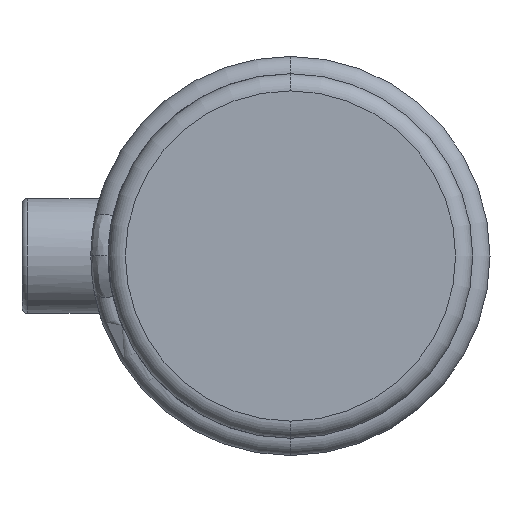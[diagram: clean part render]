
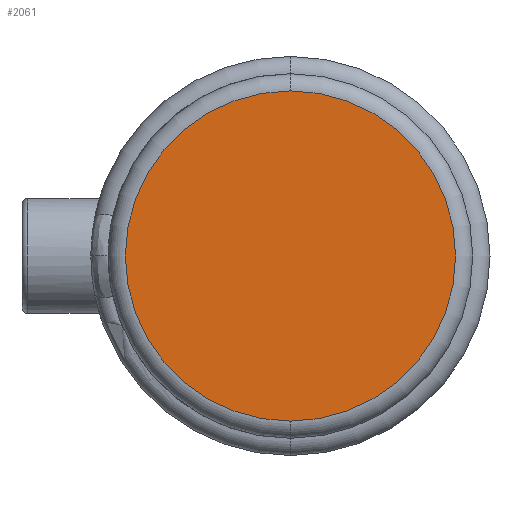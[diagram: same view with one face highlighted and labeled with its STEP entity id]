
A CAD part, left-side view. The second image highlights one B-rep face of the part: STEP entity #2061.
In plain terms, the highlighted planar face has unit normal (-1, 0, 0).
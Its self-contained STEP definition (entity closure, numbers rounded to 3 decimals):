
#177 = FACE_OUTER_BOUND ( 'NONE', #2220, .T. ) ;
#383 = DIRECTION ( 'NONE',  ( -1., 0., 0. ) ) ;
#790 = CARTESIAN_POINT ( 'NONE',  ( 0., 0., -28.75 ) ) ;
#802 = VERTEX_POINT ( 'NONE', #4502 ) ;
#840 = DIRECTION ( 'NONE',  ( -1., 0., 0. ) ) ;
#1319 = CIRCLE ( 'NONE', #1923, 28.75 ) ;
#1435 = AXIS2_PLACEMENT_3D ( 'NONE', #2267, #383, #3011 ) ;
#1923 = AXIS2_PLACEMENT_3D ( 'NONE', #1930, #4534, #2297 ) ;
#1930 = CARTESIAN_POINT ( 'NONE',  ( 0., 0., 0. ) ) ;
#2061 = ADVANCED_FACE ( 'NONE', ( #177 ), #2619, .T. ) ;
#2117 = EDGE_CURVE ( 'NONE', #802, #2818, #1319, .T. ) ;
#2119 = ORIENTED_EDGE ( 'NONE', *, *, #2304, .T. ) ;
#2220 = EDGE_LOOP ( 'NONE', ( #3389, #2119 ) ) ;
#2267 = CARTESIAN_POINT ( 'NONE',  ( 0., 0., 0. ) ) ;
#2297 = DIRECTION ( 'NONE',  ( 0., 0., 1. ) ) ;
#2304 = EDGE_CURVE ( 'NONE', #2818, #802, #3812, .T. ) ;
#2619 = PLANE ( 'NONE',  #1435 ) ;
#2818 = VERTEX_POINT ( 'NONE', #790 ) ;
#2929 = AXIS2_PLACEMENT_3D ( 'NONE', #3075, #840, #3454 ) ;
#3011 = DIRECTION ( 'NONE',  ( 0., 0., 1. ) ) ;
#3075 = CARTESIAN_POINT ( 'NONE',  ( 0., 0., 0. ) ) ;
#3389 = ORIENTED_EDGE ( 'NONE', *, *, #2117, .T. ) ;
#3454 = DIRECTION ( 'NONE',  ( 0., 0., 1. ) ) ;
#3812 = CIRCLE ( 'NONE', #2929, 28.75 ) ;
#4502 = CARTESIAN_POINT ( 'NONE',  ( 0., 0., 28.75 ) ) ;
#4534 = DIRECTION ( 'NONE',  ( -1., 0., 0. ) ) ;
